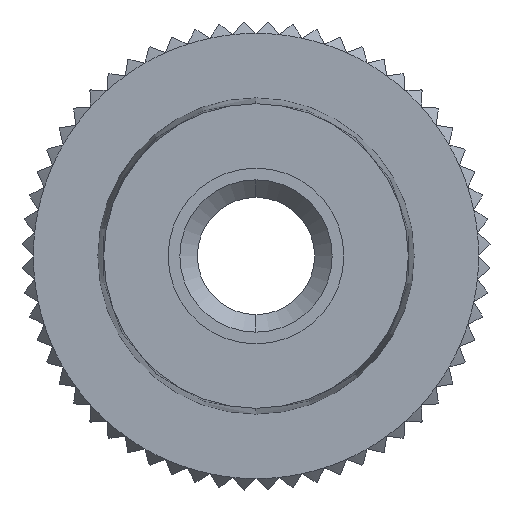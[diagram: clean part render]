
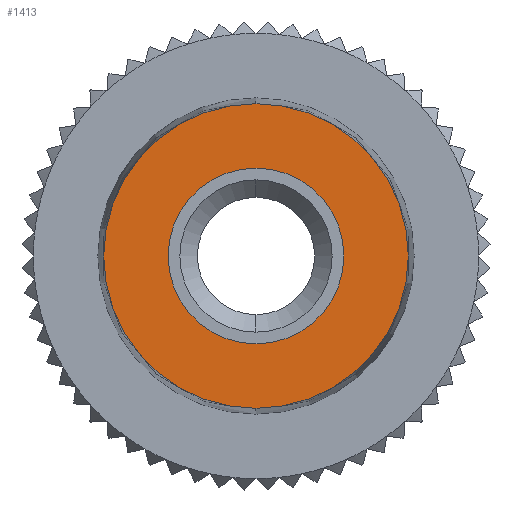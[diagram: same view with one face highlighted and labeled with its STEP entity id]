
A CAD part, front view. The second image highlights one B-rep face of the part: STEP entity #1413.
In plain terms, the highlighted planar face has unit normal (0, -1, 0).
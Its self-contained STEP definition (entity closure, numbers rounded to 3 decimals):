
#1413 = ADVANCED_FACE ( 'NONE', ( #5577, #5579 ), #5573, .T. ) ;
#1414 = EDGE_LOOP ( 'NONE', ( #1415, #1417 ) ) ;
#1415 = ORIENTED_EDGE ( 'NONE', *, *, #1416, .F. ) ;
#1416 = EDGE_CURVE ( 'NONE', #2929, #5318, #5630, .T. ) ;
#1417 = ORIENTED_EDGE ( 'NONE', *, *, #2804, .F. ) ;
#1418 = EDGE_LOOP ( 'NONE', ( #1419, #1421 ) ) ;
#1419 = ORIENTED_EDGE ( 'NONE', *, *, #1420, .T. ) ;
#1420 = EDGE_CURVE ( 'NONE', #8474, #8476, #5625, .T. ) ;
#1421 = ORIENTED_EDGE ( 'NONE', *, *, #8471, .T. ) ;
#2804 = EDGE_CURVE ( 'NONE', #5318, #2929, #7139, .T. ) ;
#2929 = VERTEX_POINT ( 'NONE', #7135 ) ;
#5318 = VERTEX_POINT ( 'NONE', #7230 ) ;
#5354 = DIRECTION ( 'NONE',  ( 0., 0., -1. ) ) ;
#5355 = AXIS2_PLACEMENT_3D ( 'NONE', #5358, #5357, #5354 ) ;
#5357 = DIRECTION ( 'NONE',  ( 0., -1., 0. ) ) ;
#5358 = CARTESIAN_POINT ( 'NONE',  ( 0., 0., 0. ) ) ;
#5573 = PLANE ( 'NONE',  #5355 ) ;
#5577 = FACE_BOUND ( 'NONE', #1414, .T. ) ;
#5579 = FACE_OUTER_BOUND ( 'NONE', #1418, .T. ) ;
#5621 = DIRECTION ( 'NONE',  ( 0., 0., -1. ) ) ;
#5622 = DIRECTION ( 'NONE',  ( 0., -1., 0. ) ) ;
#5623 = CARTESIAN_POINT ( 'NONE',  ( 0., 0., 0. ) ) ;
#5624 = AXIS2_PLACEMENT_3D ( 'NONE', #5623, #5622, #5621 ) ;
#5625 = CIRCLE ( 'NONE', #5624, 6.5 ) ;
#5626 = DIRECTION ( 'NONE',  ( 0., 0., -1. ) ) ;
#5627 = DIRECTION ( 'NONE',  ( 0., -1., 0. ) ) ;
#5628 = CARTESIAN_POINT ( 'NONE',  ( 0., 0., 0. ) ) ;
#5629 = AXIS2_PLACEMENT_3D ( 'NONE', #5628, #5627, #5626 ) ;
#5630 = CIRCLE ( 'NONE', #5629, 3.75 ) ;
#7135 = CARTESIAN_POINT ( 'NONE',  ( 0., 0., -3.75 ) ) ;
#7136 = DIRECTION ( 'NONE',  ( 0., 0., -1. ) ) ;
#7137 = DIRECTION ( 'NONE',  ( 0., -1., 0. ) ) ;
#7138 = AXIS2_PLACEMENT_3D ( 'NONE', #7145, #7137, #7136 ) ;
#7139 = CIRCLE ( 'NONE', #7138, 3.75 ) ;
#7145 = CARTESIAN_POINT ( 'NONE',  ( 0., 0., 0. ) ) ;
#7230 = CARTESIAN_POINT ( 'NONE',  ( 0., 0., 3.75 ) ) ;
#7551 = CARTESIAN_POINT ( 'NONE',  ( 0., 0., -6.5 ) ) ;
#7552 = CARTESIAN_POINT ( 'NONE',  ( 0., 0., 6.5 ) ) ;
#7553 = DIRECTION ( 'NONE',  ( 0., 0., -1. ) ) ;
#7554 = DIRECTION ( 'NONE',  ( 0., -1., 0. ) ) ;
#7555 = CARTESIAN_POINT ( 'NONE',  ( 0., 0., 0. ) ) ;
#7556 = AXIS2_PLACEMENT_3D ( 'NONE', #7555, #7554, #7553 ) ;
#7557 = CIRCLE ( 'NONE', #7556, 6.5 ) ;
#8471 = EDGE_CURVE ( 'NONE', #8476, #8474, #7557, .T. ) ;
#8474 = VERTEX_POINT ( 'NONE', #7552 ) ;
#8476 = VERTEX_POINT ( 'NONE', #7551 ) ;
